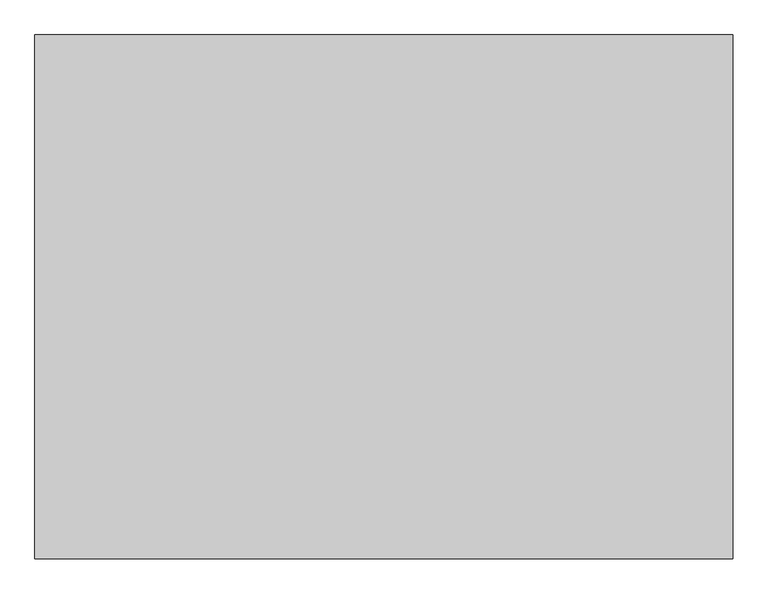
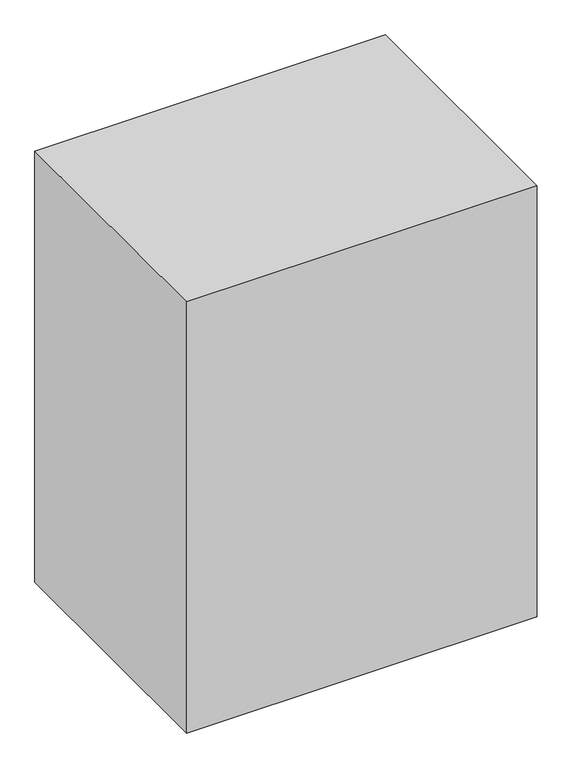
"""IFC4 building model written with IfcOpenShell, lengths in millimetres: proxy geometry."""

from ifc_helpers import new_model, si_unit, origin, origin_with_axes, place, context, project, spatial, polyline, outline, extrude, source, transform, mapped, element, save


def generic_models_080aeaf8(model_context):
    return source(origin(), model_context, "Body", "SweptSolid", [
        extrude(outline(polyline([(-91219.3218005, -30450.7903364), (-89219.3218006, -30450.7903364), (-89219.3218006, -31950.7903364), (-91219.3218005, -31950.7903364), (-91219.3218005, -30450.7903364)])), origin_with_axes(), (0.0, 0.0, 1.0), 2600.0),
    ])


if __name__ == "__main__":
    model = new_model("IFC4")
    model_context = context("Model", 3, world=origin())
    ifc_project = project(units=[si_unit("LENGTHUNIT", "METRE", prefix="MILLI")], contexts=[model_context])
    site = spatial("IfcSite", under=ifc_project)
    building = spatial("IfcBuilding", under=site)
    placement = place(None, origin())
    generic_models_shape = generic_models_080aeaf8(model_context)
    element("IfcBuildingElementProxy", 1, Name="Generic Models", at=placement, inside=building, context=model_context, shape_type="MappedRepresentation", body=[
        mapped(generic_models_shape, transform((0.0, 0.0, 0.0), x_axis=(1.0, 0.0, 0.0), y_axis=(0.0, 1.0, 0.0), z_axis=(0.0, 0.0, 1.0))),
    ])
    save(model, "model.ifc")
